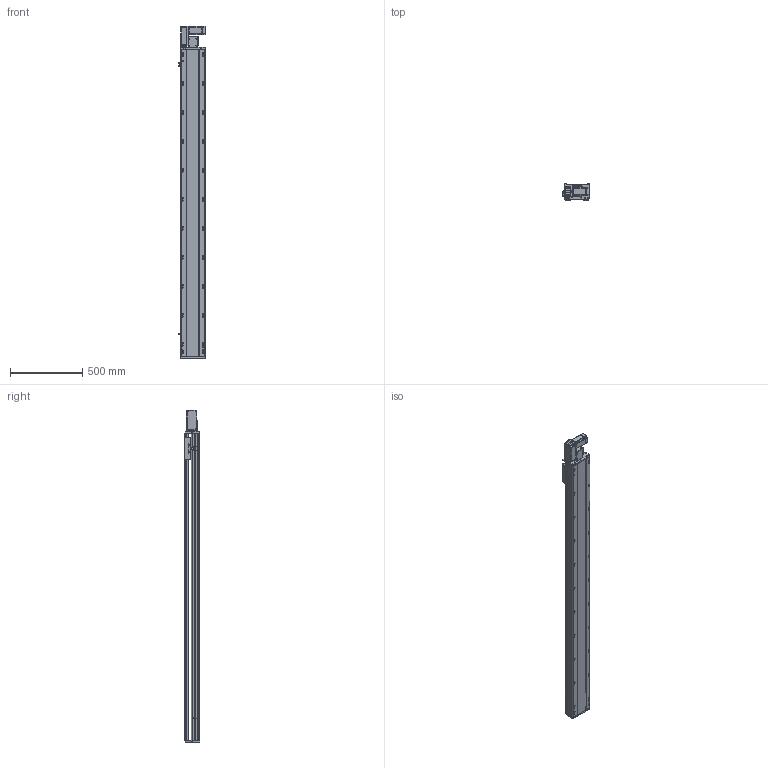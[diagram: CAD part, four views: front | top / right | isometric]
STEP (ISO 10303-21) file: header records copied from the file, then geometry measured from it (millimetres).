
FILE_DESCRIPTION (( 'STEP AP214' ), '1' );
FILE_NAME ('RTB17S-XX-1850-L-M40-C4.STEP', '2025-12-11T05:49:18', ( '' ), ( '' ), 'SwSTEP 2.0', 'SolidWorks 2018', '' );
FILE_SCHEMA (( 'AUTOMOTIVE_DESIGN' ));
Length unit declared in the file: millimetre
Products named in the file (14): 400W伺服电机^RTB17S-XX-XX-L-M40-C4（方程式）; RTH13-BL-012感应片外置^RTB17S-XX-XX-L-M40-C4（方程式）; RTB17S-L-004丝杆螺母连接座^RTB17S-XX-XX-L-M40-C4（方程式）; RTB17-R-011底座^RTB17S-XX-XX-L-M40-C4（方程式）; RTB17S-L-皮带座装配-400W^RTB17S-XX-XX-L-M40-C4（方程式）; RTB17S-XX-1850-L-M40-C4; RTB14-L-018P^RTB17S-L-皮带座装配-400W_RTB17S-XX-XX-L-M40-C4（方程式）; RTB14-L-008-M20--电机板^RTB17S-L-皮带座装配-400W_RTB17S-XX-XX-L-M40-C4（方程式）; OMRON EE-SX672 传感器^RTB17S-XX-XX-L-M40-C4（方程式）; RTB14-L-017P^RTB17S-L-皮带座装配-400W_RTB17S-XX-XX-L-M40-C4（方程式）; RMP17S-L-014-T20--皮带座^RTB17S-L-皮带座装配-400W_RTB17S-XX-XX-L-M40-C4（方程式）; RTB14-L-005P--轴承塑胶压盖^RTB17S-L-皮带座装配-400W_RTB17S-XX-XX-L-M40-C4（方程式）; RTB17S-L-001侧面板^RTB17S-XX-XX-L-M40-C4（方程式）; RTB17S-L-007上盖^RTB17S-XX-XX-L-M40-C4（方程式）
Assembly tree (16 placements, depth 3):
  RTB17S-XX-1850-L-M40-C4
    RTB17-R-011底座^RTB17S-XX-XX-L-M40-C4（方程式）
    RTB17S-L-007上盖^RTB17S-XX-XX-L-M40-C4（方程式）
    OMRON EE-SX672 传感器^RTB17S-XX-XX-L-M40-C4（方程式）  x3
    RTB17S-L-001侧面板^RTB17S-XX-XX-L-M40-C4（方程式）
    400W伺服电机^RTB17S-XX-XX-L-M40-C4（方程式）
    RTB17S-L-004丝杆螺母连接座^RTB17S-XX-XX-L-M40-C4（方程式）
    RTH13-BL-012感应片外置^RTB17S-XX-XX-L-M40-C4（方程式）
    RTB17S-L-皮带座装配-400W^RTB17S-XX-XX-L-M40-C4（方程式）
      RMP17S-L-014-T20--皮带座^RTB17S-L-皮带座装配-400W_RTB17S-XX-XX-L-M40-C4（方程式）
      RTB14-L-005P--轴承塑胶压盖^RTB17S-L-皮带座装配-400W_RTB17S-XX-XX-L-M40-C4（方程式）
      RTB14-L-008-M20--电机板^RTB17S-L-皮带座装配-400W_RTB17S-XX-XX-L-M40-C4（方程式）
      RTB14-L-017P^RTB17S-L-皮带座装配-400W_RTB17S-XX-XX-L-M40-C4（方程式）  x2
      RTB14-L-018P^RTB17S-L-皮带座装配-400W_RTB17S-XX-XX-L-M40-C4（方程式）
Bounding box: 186 x 108 x 2291 mm (x, y, z)
Volume: 19300792.9 mm3; surface area: 2255761.1 mm2
Topology: 15 solids, 15 shells, 2285 faces, 6357 edges, 4149 vertices
Faces by surface type: plane 1078, cylinder 759, bspline 301, cone 139, torus 8
Entity records: 66473 total; most frequent: CARTESIAN_POINT 18762, ORIENTED_EDGE 9558, DIRECTION 8846, EDGE_CURVE 4779, VERTEX_POINT 3137, AXIS2_PLACEMENT_3D 3067, VECTOR 2712, LINE 2712
